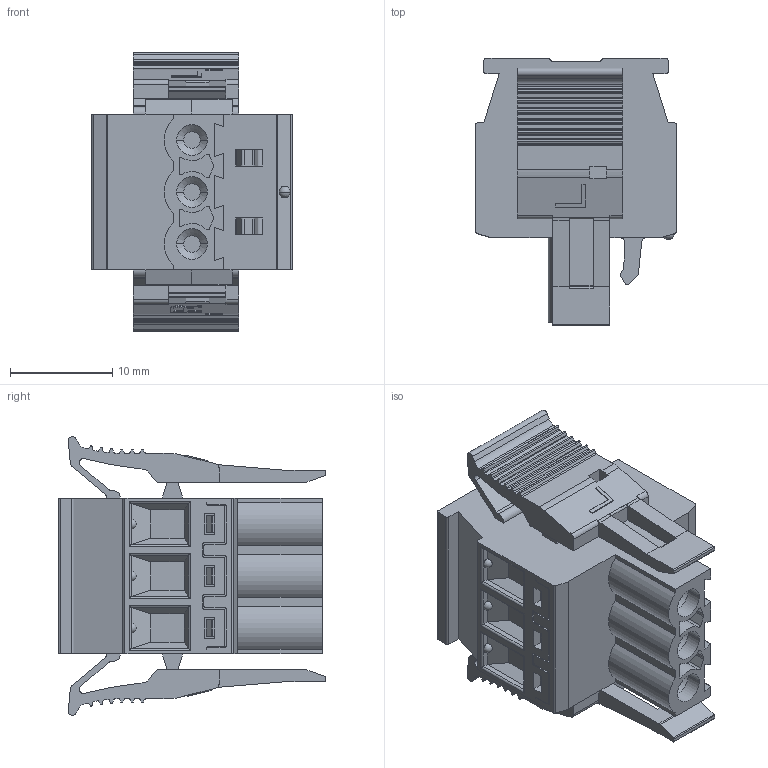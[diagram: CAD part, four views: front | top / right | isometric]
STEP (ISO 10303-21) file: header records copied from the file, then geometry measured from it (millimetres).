
FILE_DESCRIPTION((''),'2;1');
FILE_NAME('3PIN_SW0001','2019-06-10T',('zhenbing.lai'),(''),'CREO PARAMETRIC BY PTC INC, 2016260','CREO PARAMETRIC BY PTC INC, 2016260','');
FILE_SCHEMA(('CONFIG_CONTROL_DESIGN'));
Length unit declared in the file: millimetre
Products named in the file (1): 3PIN_SW0001
Bounding box: 19.6 x 26.1 x 27.24 mm (x, y, z)
Volume: 5868.5 mm3; surface area: 5027.1 mm2
Topology: 1 solids, 1 shells, 1090 faces, 3291 edges, 2183 vertices
Faces by surface type: plane 627, cylinder 343, cone 46, torus 42, bspline 24, sphere 8
Entity records: 39157 total; most frequent: CARTESIAN_POINT 9434, ORIENTED_EDGE 6566, DIRECTION 5924, EDGE_CURVE 3283, VERTEX_POINT 2183, VECTOR 2024, LINE 2024, AXIS2_PLACEMENT_3D 1950
